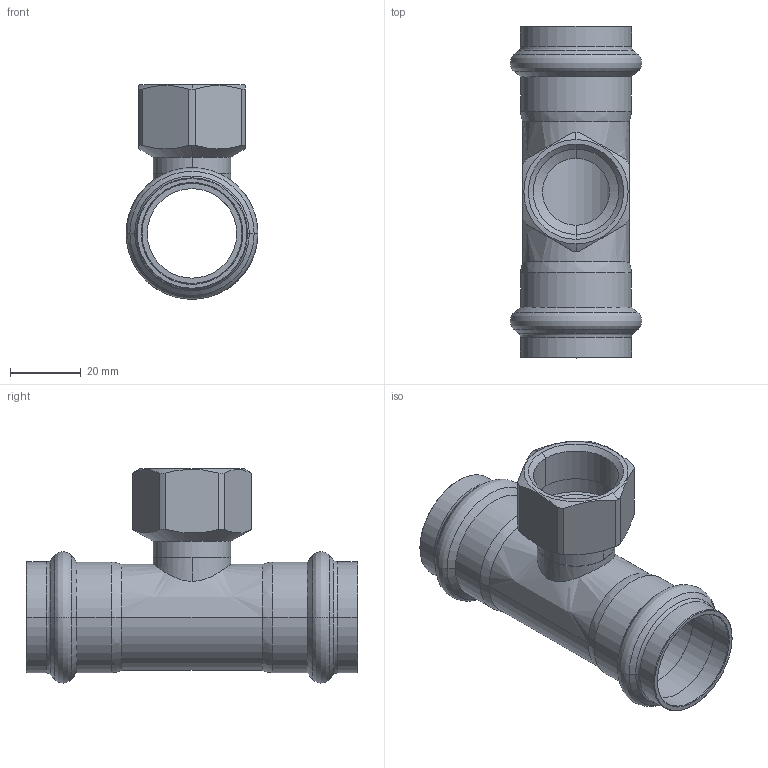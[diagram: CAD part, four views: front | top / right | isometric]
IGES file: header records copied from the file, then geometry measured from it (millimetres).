
Start section: Elysium IGES Interface
Global section: file name: C:\Users\Wallenburg\Desktop\3d modellen sudo\S-Pr VP\SP6130GV\6130GVW283428.igs; native system: CoCreate Modeling 17.00A  17-Jun-2010; preprocessor: CoCreate IGES_3D V2.2; author: Unknown; organization: Unknown; date: 20130121.150852; units: millimetre
Bounding box: 37.2 x 93.81 x 60.59 mm (x, y, z)
Volume: 22493.9 mm3; surface area: 23443 mm2
Topology: 1 solids, 1 shells, 117 faces, 262 edges, 154 vertices
Faces by surface type: bspline 117
